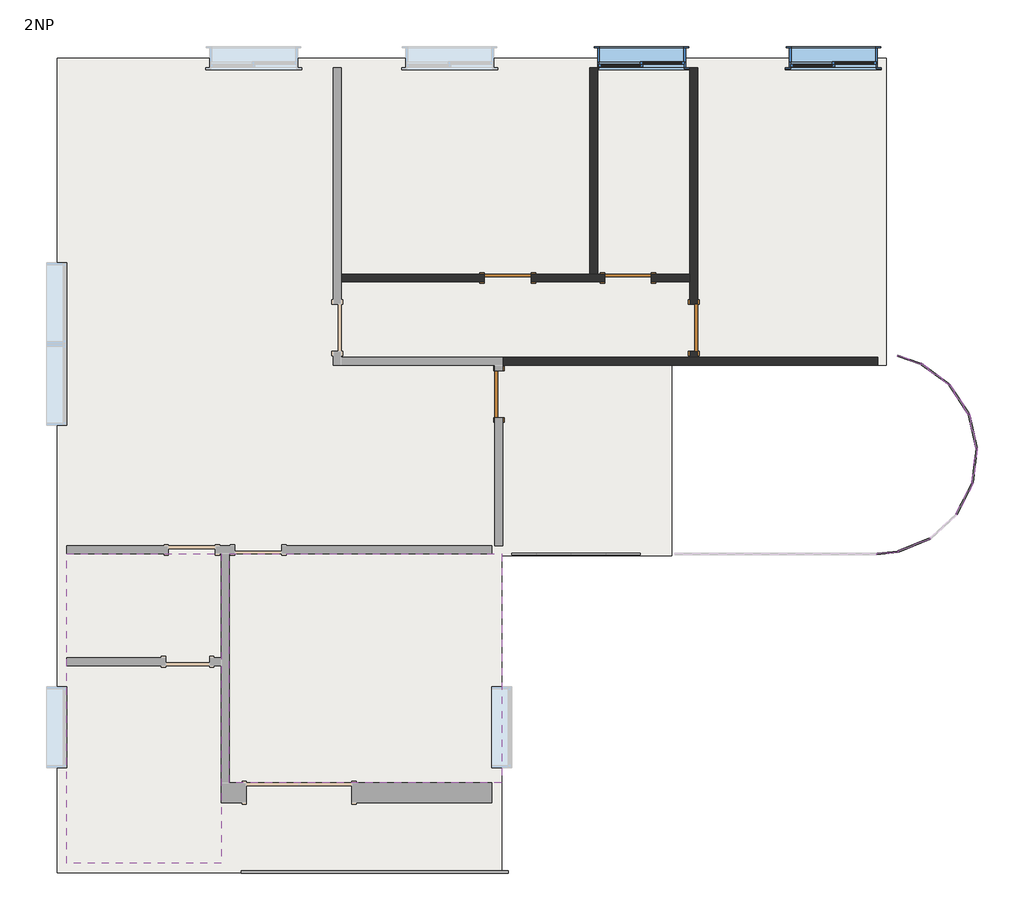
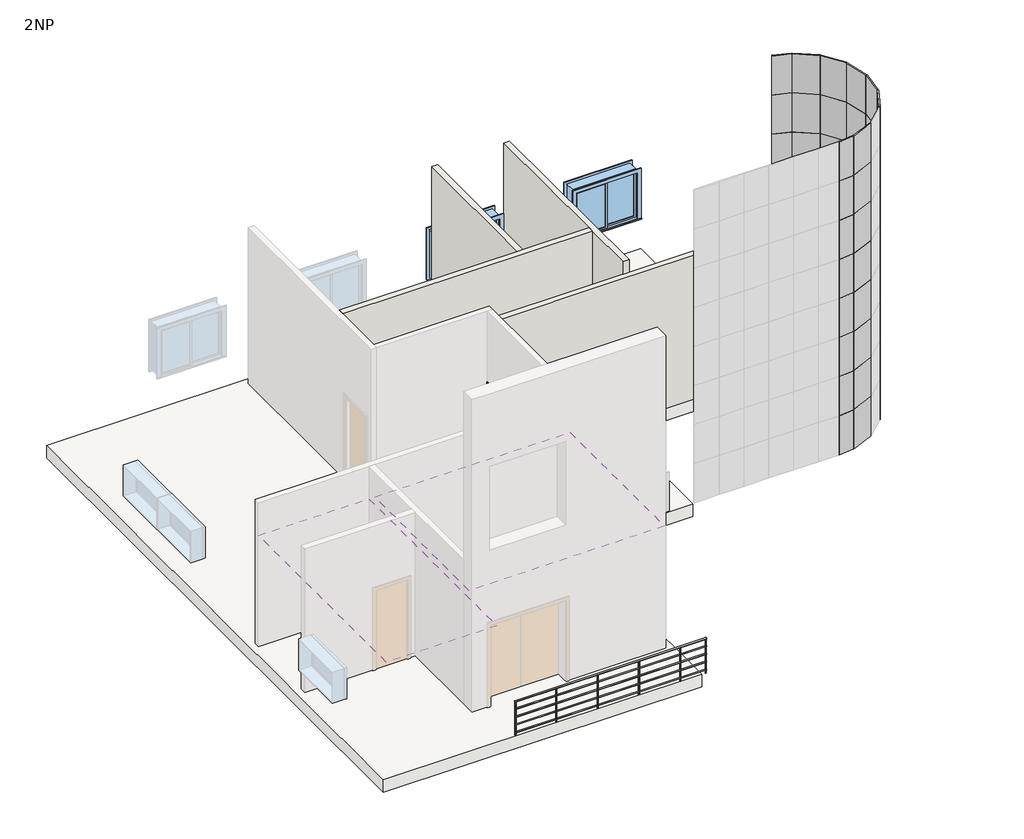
# One storey, part 2 of 2: 64 plates, 4 doors, 4 walls, 2 coverings, 2 railings, 2 windows, 1 slab.
"""IFC4 building model written with IfcOpenShell, lengths in millimetres."""

from ifc_helpers import new_model, si_unit, frame, origin, place, context, project, spatial, polyline, outline, extrude, faceted_brep, transform, mapped, element, save
from components import m_single_flush_0813_x_2134mm_bf4bb56d, m_single_flush_0813_x_2134mm_cfdfac75, system_panel_glazed_0324e248, system_panel_glazed_cfa42cd7, system_panel_glazed_a481d3b4, railing_900mm_pipe_45b1395d, m_sliding_with_trim_1830_x_1220mm_f8e2f31e

model = new_model("IFC4")

# Units and contexts
model_context = context("Model", 3, world=origin())
ifc_project = project(units=[si_unit("LENGTHUNIT", "METRE", prefix="MILLI")], contexts=[model_context])

# Site, building, storey
site = spatial("IfcSite", under=ifc_project)
building = spatial("IfcBuilding", under=site)
storey = spatial("IfcBuildingStorey", under=building, Name="2NP", Elevation=4000.0)

# Coverings
placement = place(None, origin())
element("IfcCovering", 1, ObjectType="600 x 600mm grid", at=placement, inside=storey, context=model_context, shape_type="SweptSolid", body=[
    extrude(outline(polyline([(-4505.3077176, -4075.1973194), (-7180.3077176, -4075.1973194), (-7180.3077176, 1286.3026806), (-4505.3077176, 1286.3026806), (-4505.3077176, -4075.1973194)])), frame((0.0, 0.0, 6850.0), z_axis=(0.0, 0.0, 1.0), x_axis=(1.0, 0.0, 0.0)), (0.0, 0.0, 1.0), 52.0),
])
element("IfcCovering", 2, ObjectType="600 x 600mm grid", at=placement, inside=storey, context=model_context, shape_type="SweptSolid", body=[
    extrude(outline(polyline([(357.3775179, 1286.3026806), (357.3775179, -2675.1973194), (-4366.8077176, -2675.1973194), (-4366.8077176, 1286.3026806), (357.3775179, 1286.3026806)])), frame((0.0, 0.0, 6850.0), z_axis=(0.0, 0.0, 1.0), x_axis=(1.0, 0.0, 0.0)), (0.0, 0.0, 1.0), 52.0),
])

# Doors
m_single_flush_0813_x_2134mm_shape = m_single_flush_0813_x_2134mm_bf4bb56d(model_context)
element("IfcDoor", 3, ObjectType="M_Single-Flush : 0813 x 2134mm", at=placement, inside=storey, context=model_context, shape_type="MappedRepresentation", body=[
    mapped(m_single_flush_0813_x_2134mm_shape, transform((2546.5391702, 6069.2761065, 4000.0), x_axis=(-1.0, 0.0, 0.0), y_axis=(0.0, -1.0, 0.0), z_axis=(0.0, 0.0, 1.0))),
])
m_single_flush_0813_x_2134mm_2_shape = m_single_flush_0813_x_2134mm_cfdfac75(model_context)
element("IfcDoor", 4, ObjectType="M_Single-Flush : 0813 x 2134mm", at=placement, inside=storey, context=model_context, shape_type="MappedRepresentation", body=[
    mapped(m_single_flush_0813_x_2134mm_2_shape, transform((462.8926637, 6069.2761065, 4000.0), x_axis=(1.0, 0.0, 0.0), y_axis=(0.0, 1.0, 0.0), z_axis=(0.0, 0.0, 1.0))),
])
element("IfcDoor", 5, ObjectType="M_Single-Flush : 0813 x 2134mm", at=placement, inside=storey, context=model_context, shape_type="MappedRepresentation", body=[
    mapped(m_single_flush_0813_x_2134mm_2_shape, transform((3688.9422824, 5206.5261065, 4000.0), x_axis=(0.0, -1.0, 0.0), y_axis=(1.0, 0.0, 0.0), z_axis=(0.0, 0.0, 1.0))),
])
element("IfcDoor", 6, ObjectType="M_Single-Flush : 0813 x 2134mm", at=placement, inside=storey, context=model_context, shape_type="MappedRepresentation", body=[
    mapped(m_single_flush_0813_x_2134mm_2_shape, transform((310.5422824, 4055.0261065, 4000.0), x_axis=(0.0, 1.0, 0.0), y_axis=(-1.0, 0.0, 0.0), z_axis=(0.0, 0.0, 1.0))),
])

# Plates
system_panel_glazed_shape = system_panel_glazed_0324e248(model_context)
element("IfcPlate", 7, ObjectType="System Panel : Glazed", at=placement, inside=storey, context=model_context, shape_type="MappedRepresentation", body=[
    mapped(system_panel_glazed_shape, transform((7407.5982701, 4617.9248656, 4000.0), x_axis=(0.9451321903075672, -0.3266881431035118, 0.0), y_axis=(0.3266881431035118, 0.9451321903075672, 0.0), z_axis=(0.0, 0.0, 1.0))),
])
element("IfcPlate", 8, ObjectType="System Panel : Glazed", at=placement, inside=storey, context=model_context, shape_type="MappedRepresentation", body=[
    mapped(system_panel_glazed_shape, transform((7407.5982701, 4617.9248656, 5000.0), x_axis=(0.9451321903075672, -0.32668814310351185, 0.0), y_axis=(0.32668814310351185, 0.9451321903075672, 0.0), z_axis=(0.0, 0.0, 1.0))),
])
element("IfcPlate", 9, ObjectType="System Panel : Glazed", at=placement, inside=storey, context=model_context, shape_type="MappedRepresentation", body=[
    mapped(system_panel_glazed_shape, transform((7407.5982701, 4617.9248656, 6000.0), x_axis=(0.9451321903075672, -0.32668814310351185, 0.0), y_axis=(0.32668814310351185, 0.9451321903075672, 0.0), z_axis=(0.0, 0.0, 1.0))),
])
element("IfcPlate", 10, ObjectType="System Panel : Glazed", at=placement, inside=storey, context=model_context, shape_type="MappedRepresentation", body=[
    mapped(system_panel_glazed_shape, transform((7407.5982701, 4617.9248656, 7000.0), x_axis=(0.9451321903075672, -0.32668814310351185, 0.0), y_axis=(0.32668814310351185, 0.9451321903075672, 0.0), z_axis=(0.0, 0.0, 1.0))),
])
element("IfcPlate", 11, ObjectType="System Panel : Glazed", at=placement, inside=storey, context=model_context, shape_type="MappedRepresentation", body=[
    mapped(system_panel_glazed_shape, transform((7407.5982701, 4617.9248656, 8000.0), x_axis=(0.9451321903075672, -0.32668814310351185, 0.0), y_axis=(0.32668814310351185, 0.9451321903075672, 0.0), z_axis=(0.0, 0.0, 1.0))),
])
element("IfcPlate", 12, ObjectType="System Panel : Glazed", at=placement, inside=storey, context=model_context, shape_type="MappedRepresentation", body=[
    mapped(system_panel_glazed_shape, transform((7407.5982701, 4617.9248656, 9000.0), x_axis=(0.9451321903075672, -0.32668814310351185, 0.0), y_axis=(0.32668814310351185, 0.9451321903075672, 0.0), z_axis=(0.0, 0.0, 1.0))),
])
element("IfcPlate", 13, ObjectType="System Panel : Glazed", at=placement, inside=storey, context=model_context, shape_type="MappedRepresentation", body=[
    mapped(system_panel_glazed_shape, transform((7407.5982701, 4617.9248656, 10000.0), x_axis=(0.9451321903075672, -0.32668814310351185, 0.0), y_axis=(0.32668814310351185, 0.9451321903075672, 0.0), z_axis=(0.0, 0.0, 1.0))),
])
element("IfcPlate", 14, ObjectType="System Panel : Glazed", at=placement, inside=storey, context=model_context, shape_type="MappedRepresentation", body=[
    mapped(system_panel_glazed_shape, transform((7407.5982701, 4617.9248656, 11000.0), x_axis=(0.9451321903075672, -0.32668814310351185, 0.0), y_axis=(0.32668814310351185, 0.9451321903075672, 0.0), z_axis=(0.0, 0.0, 1.0))),
])
system_panel_glazed_2_shape = system_panel_glazed_cfa42cd7(model_context)
element("IfcPlate", 15, ObjectType="System Panel : Glazed", at=placement, inside=storey, context=model_context, shape_type="MappedRepresentation", body=[
    mapped(system_panel_glazed_2_shape, transform((7847.9149476, 4372.0529301, 4000.0), x_axis=(0.8056732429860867, -0.5923602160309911, 0.0), y_axis=(0.5923602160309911, 0.8056732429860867, 0.0), z_axis=(0.0, 0.0, 1.0))),
])
element("IfcPlate", 16, ObjectType="System Panel : Glazed", at=placement, inside=storey, context=model_context, shape_type="MappedRepresentation", body=[
    mapped(system_panel_glazed_2_shape, transform((8252.8844111, 3946.2622388, 4000.0), x_axis=(0.5512569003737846, -0.8343355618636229, 0.0), y_axis=(0.8343355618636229, 0.5512569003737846, 0.0), z_axis=(0.0, 0.0, 1.0))),
])
element("IfcPlate", 17, ObjectType="System Panel : Glazed", at=placement, inside=storey, context=model_context, shape_type="MappedRepresentation", body=[
    mapped(system_panel_glazed_2_shape, transform((8485.7131471, 3406.7358179, 4000.0), x_axis=(0.22888174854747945, -0.9734542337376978, 0.0), y_axis=(0.9734542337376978, 0.22888174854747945, 0.0), z_axis=(0.0, 0.0, 1.0))),
])
element("IfcPlate", 18, ObjectType="System Panel : Glazed", at=placement, inside=storey, context=model_context, shape_type="MappedRepresentation", body=[
    mapped(system_panel_glazed_2_shape, transform((8517.6980887, 2819.9863461, 4000.0), x_axis=(-0.12170988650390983, -0.9925657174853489, 0.0), y_axis=(0.9925657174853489, -0.12170988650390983, 0.0), z_axis=(0.0, 0.0, 1.0))),
])
element("IfcPlate", 19, ObjectType="System Panel : Glazed", at=placement, inside=storey, context=model_context, shape_type="MappedRepresentation", body=[
    mapped(system_panel_glazed_2_shape, transform((7847.9149476, 4372.0529301, 5000.0), x_axis=(0.8056732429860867, -0.5923602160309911, 0.0), y_axis=(0.5923602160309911, 0.8056732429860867, 0.0), z_axis=(0.0, 0.0, 1.0))),
])
element("IfcPlate", 20, ObjectType="System Panel : Glazed", at=placement, inside=storey, context=model_context, shape_type="MappedRepresentation", body=[
    mapped(system_panel_glazed_2_shape, transform((8252.8844111, 3946.2622388, 5000.0), x_axis=(0.5512569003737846, -0.8343355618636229, 0.0), y_axis=(0.8343355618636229, 0.5512569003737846, 0.0), z_axis=(0.0, 0.0, 1.0))),
])
element("IfcPlate", 21, ObjectType="System Panel : Glazed", at=placement, inside=storey, context=model_context, shape_type="MappedRepresentation", body=[
    mapped(system_panel_glazed_2_shape, transform((8485.7131471, 3406.7358179, 5000.0), x_axis=(0.22888174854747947, -0.9734542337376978, 0.0), y_axis=(0.9734542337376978, 0.22888174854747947, 0.0), z_axis=(0.0, 0.0, 1.0))),
])
element("IfcPlate", 22, ObjectType="System Panel : Glazed", at=placement, inside=storey, context=model_context, shape_type="MappedRepresentation", body=[
    mapped(system_panel_glazed_2_shape, transform((8517.6980887, 2819.9863461, 5000.0), x_axis=(-0.12170988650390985, -0.9925657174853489, 0.0), y_axis=(0.9925657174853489, -0.12170988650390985, 0.0), z_axis=(0.0, 0.0, 1.0))),
])
element("IfcPlate", 23, ObjectType="System Panel : Glazed", at=placement, inside=storey, context=model_context, shape_type="MappedRepresentation", body=[
    mapped(system_panel_glazed_2_shape, transform((7847.9149476, 4372.0529301, 6000.0), x_axis=(0.8056732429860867, -0.5923602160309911, 0.0), y_axis=(0.5923602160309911, 0.8056732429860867, 0.0), z_axis=(0.0, 0.0, 1.0))),
])
element("IfcPlate", 24, ObjectType="System Panel : Glazed", at=placement, inside=storey, context=model_context, shape_type="MappedRepresentation", body=[
    mapped(system_panel_glazed_2_shape, transform((8252.8844111, 3946.2622388, 6000.0), x_axis=(0.5512569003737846, -0.8343355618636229, 0.0), y_axis=(0.8343355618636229, 0.5512569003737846, 0.0), z_axis=(0.0, 0.0, 1.0))),
])
element("IfcPlate", 25, ObjectType="System Panel : Glazed", at=placement, inside=storey, context=model_context, shape_type="MappedRepresentation", body=[
    mapped(system_panel_glazed_2_shape, transform((8485.7131471, 3406.7358179, 6000.0), x_axis=(0.22888174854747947, -0.9734542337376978, 0.0), y_axis=(0.9734542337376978, 0.22888174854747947, 0.0), z_axis=(0.0, 0.0, 1.0))),
])
element("IfcPlate", 26, ObjectType="System Panel : Glazed", at=placement, inside=storey, context=model_context, shape_type="MappedRepresentation", body=[
    mapped(system_panel_glazed_2_shape, transform((8517.6980887, 2819.9863461, 6000.0), x_axis=(-0.12170988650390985, -0.9925657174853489, 0.0), y_axis=(0.9925657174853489, -0.12170988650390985, 0.0), z_axis=(0.0, 0.0, 1.0))),
])
element("IfcPlate", 27, ObjectType="System Panel : Glazed", at=placement, inside=storey, context=model_context, shape_type="MappedRepresentation", body=[
    mapped(system_panel_glazed_2_shape, transform((7847.9149476, 4372.0529301, 7000.0), x_axis=(0.8056732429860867, -0.5923602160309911, 0.0), y_axis=(0.5923602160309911, 0.8056732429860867, 0.0), z_axis=(0.0, 0.0, 1.0))),
])
element("IfcPlate", 28, ObjectType="System Panel : Glazed", at=placement, inside=storey, context=model_context, shape_type="MappedRepresentation", body=[
    mapped(system_panel_glazed_2_shape, transform((8252.8844111, 3946.2622388, 7000.0), x_axis=(0.5512569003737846, -0.8343355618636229, 0.0), y_axis=(0.8343355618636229, 0.5512569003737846, 0.0), z_axis=(0.0, 0.0, 1.0))),
])
element("IfcPlate", 29, ObjectType="System Panel : Glazed", at=placement, inside=storey, context=model_context, shape_type="MappedRepresentation", body=[
    mapped(system_panel_glazed_2_shape, transform((8485.7131471, 3406.7358179, 7000.0), x_axis=(0.22888174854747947, -0.9734542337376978, 0.0), y_axis=(0.9734542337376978, 0.22888174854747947, 0.0), z_axis=(0.0, 0.0, 1.0))),
])
element("IfcPlate", 30, ObjectType="System Panel : Glazed", at=placement, inside=storey, context=model_context, shape_type="MappedRepresentation", body=[
    mapped(system_panel_glazed_2_shape, transform((8517.6980887, 2819.9863461, 7000.0), x_axis=(-0.12170988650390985, -0.9925657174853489, 0.0), y_axis=(0.9925657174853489, -0.12170988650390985, 0.0), z_axis=(0.0, 0.0, 1.0))),
])
element("IfcPlate", 31, ObjectType="System Panel : Glazed", at=placement, inside=storey, context=model_context, shape_type="MappedRepresentation", body=[
    mapped(system_panel_glazed_2_shape, transform((7847.9149476, 4372.0529301, 8000.0), x_axis=(0.8056732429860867, -0.5923602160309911, 0.0), y_axis=(0.5923602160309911, 0.8056732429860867, 0.0), z_axis=(0.0, 0.0, 1.0))),
])
element("IfcPlate", 32, ObjectType="System Panel : Glazed", at=placement, inside=storey, context=model_context, shape_type="MappedRepresentation", body=[
    mapped(system_panel_glazed_2_shape, transform((8252.8844111, 3946.2622388, 8000.0), x_axis=(0.5512569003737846, -0.8343355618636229, 0.0), y_axis=(0.8343355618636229, 0.5512569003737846, 0.0), z_axis=(0.0, 0.0, 1.0))),
])
element("IfcPlate", 33, ObjectType="System Panel : Glazed", at=placement, inside=storey, context=model_context, shape_type="MappedRepresentation", body=[
    mapped(system_panel_glazed_2_shape, transform((8485.7131471, 3406.7358179, 8000.0), x_axis=(0.22888174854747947, -0.9734542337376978, 0.0), y_axis=(0.9734542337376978, 0.22888174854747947, 0.0), z_axis=(0.0, 0.0, 1.0))),
])
element("IfcPlate", 34, ObjectType="System Panel : Glazed", at=placement, inside=storey, context=model_context, shape_type="MappedRepresentation", body=[
    mapped(system_panel_glazed_2_shape, transform((8517.6980887, 2819.9863461, 8000.0), x_axis=(-0.12170988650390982, -0.9925657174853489, 0.0), y_axis=(0.9925657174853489, -0.12170988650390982, 0.0), z_axis=(0.0, 0.0, 1.0))),
])
element("IfcPlate", 35, ObjectType="System Panel : Glazed", at=placement, inside=storey, context=model_context, shape_type="MappedRepresentation", body=[
    mapped(system_panel_glazed_2_shape, transform((7847.9149476, 4372.0529301, 9000.0), x_axis=(0.8056732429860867, -0.5923602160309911, 0.0), y_axis=(0.5923602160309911, 0.8056732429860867, 0.0), z_axis=(0.0, 0.0, 1.0))),
])
element("IfcPlate", 36, ObjectType="System Panel : Glazed", at=placement, inside=storey, context=model_context, shape_type="MappedRepresentation", body=[
    mapped(system_panel_glazed_2_shape, transform((8252.8844111, 3946.2622388, 9000.0), x_axis=(0.5512569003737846, -0.8343355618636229, 0.0), y_axis=(0.8343355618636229, 0.5512569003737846, 0.0), z_axis=(0.0, 0.0, 1.0))),
])
element("IfcPlate", 37, ObjectType="System Panel : Glazed", at=placement, inside=storey, context=model_context, shape_type="MappedRepresentation", body=[
    mapped(system_panel_glazed_2_shape, transform((8485.7131471, 3406.7358179, 9000.0), x_axis=(0.22888174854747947, -0.9734542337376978, 0.0), y_axis=(0.9734542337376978, 0.22888174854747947, 0.0), z_axis=(0.0, 0.0, 1.0))),
])
element("IfcPlate", 38, ObjectType="System Panel : Glazed", at=placement, inside=storey, context=model_context, shape_type="MappedRepresentation", body=[
    mapped(system_panel_glazed_2_shape, transform((8517.6980887, 2819.9863461, 9000.0), x_axis=(-0.12170988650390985, -0.9925657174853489, 0.0), y_axis=(0.9925657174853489, -0.12170988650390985, 0.0), z_axis=(0.0, 0.0, 1.0))),
])
element("IfcPlate", 39, ObjectType="System Panel : Glazed", at=placement, inside=storey, context=model_context, shape_type="MappedRepresentation", body=[
    mapped(system_panel_glazed_2_shape, transform((7847.9149476, 4372.0529301, 10000.0), x_axis=(0.8056732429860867, -0.5923602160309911, 0.0), y_axis=(0.5923602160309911, 0.8056732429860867, 0.0), z_axis=(0.0, 0.0, 1.0))),
])
element("IfcPlate", 40, ObjectType="System Panel : Glazed", at=placement, inside=storey, context=model_context, shape_type="MappedRepresentation", body=[
    mapped(system_panel_glazed_2_shape, transform((8252.8844111, 3946.2622388, 10000.0), x_axis=(0.5512569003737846, -0.8343355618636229, 0.0), y_axis=(0.8343355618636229, 0.5512569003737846, 0.0), z_axis=(0.0, 0.0, 1.0))),
])
element("IfcPlate", 41, ObjectType="System Panel : Glazed", at=placement, inside=storey, context=model_context, shape_type="MappedRepresentation", body=[
    mapped(system_panel_glazed_2_shape, transform((8485.7131471, 3406.7358179, 10000.0), x_axis=(0.22888174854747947, -0.9734542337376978, 0.0), y_axis=(0.9734542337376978, 0.22888174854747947, 0.0), z_axis=(0.0, 0.0, 1.0))),
])
element("IfcPlate", 42, ObjectType="System Panel : Glazed", at=placement, inside=storey, context=model_context, shape_type="MappedRepresentation", body=[
    mapped(system_panel_glazed_2_shape, transform((8517.6980887, 2819.9863461, 10000.0), x_axis=(-0.12170988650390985, -0.9925657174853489, 0.0), y_axis=(0.9925657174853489, -0.12170988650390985, 0.0), z_axis=(0.0, 0.0, 1.0))),
])
element("IfcPlate", 43, ObjectType="System Panel : Glazed", at=placement, inside=storey, context=model_context, shape_type="MappedRepresentation", body=[
    mapped(system_panel_glazed_2_shape, transform((7847.9149476, 4372.0529301, 11000.0), x_axis=(0.8056732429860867, -0.5923602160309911, 0.0), y_axis=(0.5923602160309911, 0.8056732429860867, 0.0), z_axis=(0.0, 0.0, 1.0))),
])
element("IfcPlate", 44, ObjectType="System Panel : Glazed", at=placement, inside=storey, context=model_context, shape_type="MappedRepresentation", body=[
    mapped(system_panel_glazed_2_shape, transform((8252.8844111, 3946.2622388, 11000.0), x_axis=(0.5512569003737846, -0.8343355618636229, 0.0), y_axis=(0.8343355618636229, 0.5512569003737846, 0.0), z_axis=(0.0, 0.0, 1.0))),
])
element("IfcPlate", 45, ObjectType="System Panel : Glazed", at=placement, inside=storey, context=model_context, shape_type="MappedRepresentation", body=[
    mapped(system_panel_glazed_2_shape, transform((8485.7131471, 3406.7358179, 11000.0), x_axis=(0.22888174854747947, -0.9734542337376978, 0.0), y_axis=(0.9734542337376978, 0.22888174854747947, 0.0), z_axis=(0.0, 0.0, 1.0))),
])
element("IfcPlate", 46, ObjectType="System Panel : Glazed", at=placement, inside=storey, context=model_context, shape_type="MappedRepresentation", body=[
    mapped(system_panel_glazed_2_shape, transform((8517.6980887, 2819.9863461, 11000.0), x_axis=(-0.12170988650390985, -0.9925657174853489, 0.0), y_axis=(0.9925657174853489, -0.12170988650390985, 0.0), z_axis=(0.0, 0.0, 1.0))),
])
element("IfcPlate", 47, ObjectType="System Panel : Glazed", at=placement, inside=storey, context=model_context, shape_type="MappedRepresentation", body=[
    mapped(system_panel_glazed_2_shape, transform((8344.8961407, 2258.3481477, 4000.0), x_axis=(-0.4572971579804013, -0.8893139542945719, 0.0), y_axis=(0.8893139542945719, -0.4572971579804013, 0.0), z_axis=(0.0, 0.0, 1.0))),
])
element("IfcPlate", 48, ObjectType="System Panel : Glazed", at=placement, inside=storey, context=model_context, shape_type="MappedRepresentation", body=[
    mapped(system_panel_glazed_2_shape, transform((8344.8961407, 2258.3481477, 5000.0), x_axis=(-0.4572971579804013, -0.8893139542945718, 0.0), y_axis=(0.8893139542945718, -0.4572971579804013, 0.0), z_axis=(0.0, 0.0, 1.0))),
])
element("IfcPlate", 49, ObjectType="System Panel : Glazed", at=placement, inside=storey, context=model_context, shape_type="MappedRepresentation", body=[
    mapped(system_panel_glazed_2_shape, transform((8344.8961407, 2258.3481477, 6000.0), x_axis=(-0.4572971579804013, -0.8893139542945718, 0.0), y_axis=(0.8893139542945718, -0.4572971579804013, 0.0), z_axis=(0.0, 0.0, 1.0))),
])
element("IfcPlate", 50, ObjectType="System Panel : Glazed", at=placement, inside=storey, context=model_context, shape_type="MappedRepresentation", body=[
    mapped(system_panel_glazed_2_shape, transform((8344.8961407, 2258.3481477, 7000.0), x_axis=(-0.4572971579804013, -0.8893139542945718, 0.0), y_axis=(0.8893139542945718, -0.4572971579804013, 0.0), z_axis=(0.0, 0.0, 1.0))),
])
element("IfcPlate", 51, ObjectType="System Panel : Glazed", at=placement, inside=storey, context=model_context, shape_type="MappedRepresentation", body=[
    mapped(system_panel_glazed_2_shape, transform((8344.8961407, 2258.3481477, 8000.0), x_axis=(-0.4572971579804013, -0.8893139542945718, 0.0), y_axis=(0.8893139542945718, -0.4572971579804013, 0.0), z_axis=(0.0, 0.0, 1.0))),
])
element("IfcPlate", 52, ObjectType="System Panel : Glazed", at=placement, inside=storey, context=model_context, shape_type="MappedRepresentation", body=[
    mapped(system_panel_glazed_2_shape, transform((8344.8961407, 2258.3481477, 9000.0), x_axis=(-0.4572971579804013, -0.8893139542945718, 0.0), y_axis=(0.8893139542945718, -0.4572971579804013, 0.0), z_axis=(0.0, 0.0, 1.0))),
])
element("IfcPlate", 53, ObjectType="System Panel : Glazed", at=placement, inside=storey, context=model_context, shape_type="MappedRepresentation", body=[
    mapped(system_panel_glazed_2_shape, transform((8344.8961407, 2258.3481477, 10000.0), x_axis=(-0.4572971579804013, -0.8893139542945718, 0.0), y_axis=(0.8893139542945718, -0.4572971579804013, 0.0), z_axis=(0.0, 0.0, 1.0))),
])
element("IfcPlate", 54, ObjectType="System Panel : Glazed", at=placement, inside=storey, context=model_context, shape_type="MappedRepresentation", body=[
    mapped(system_panel_glazed_2_shape, transform((8344.8961407, 2258.3481477, 11000.0), x_axis=(-0.4572971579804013, -0.8893139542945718, 0.0), y_axis=(0.8893139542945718, -0.4572971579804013, 0.0), z_axis=(0.0, 0.0, 1.0))),
])
element("IfcPlate", 55, ObjectType="System Panel : Glazed", at=placement, inside=storey, context=model_context, shape_type="MappedRepresentation", body=[
    mapped(system_panel_glazed_2_shape, transform((7492.7633439, 1475.7285933, 4000.0), x_axis=(-0.924924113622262, -0.38015179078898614, 0.0), y_axis=(0.38015179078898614, -0.924924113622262, 0.0), z_axis=(0.0, 0.0, 1.0))),
])
element("IfcPlate", 56, ObjectType="System Panel : Glazed", at=placement, inside=storey, context=model_context, shape_type="MappedRepresentation", body=[
    mapped(system_panel_glazed_2_shape, transform((7492.7633439, 1475.7285933, 5000.0), x_axis=(-0.924924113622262, -0.38015179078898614, 0.0), y_axis=(0.38015179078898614, -0.924924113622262, 0.0), z_axis=(0.0, 0.0, 1.0))),
])
element("IfcPlate", 57, ObjectType="System Panel : Glazed", at=placement, inside=storey, context=model_context, shape_type="MappedRepresentation", body=[
    mapped(system_panel_glazed_2_shape, transform((7492.7633439, 1475.7285933, 6000.0), x_axis=(-0.924924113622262, -0.38015179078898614, 0.0), y_axis=(0.38015179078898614, -0.924924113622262, 0.0), z_axis=(0.0, 0.0, 1.0))),
])
element("IfcPlate", 58, ObjectType="System Panel : Glazed", at=placement, inside=storey, context=model_context, shape_type="MappedRepresentation", body=[
    mapped(system_panel_glazed_2_shape, transform((7492.7633439, 1475.7285933, 7000.0), x_axis=(-0.924924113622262, -0.38015179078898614, 0.0), y_axis=(0.38015179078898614, -0.924924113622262, 0.0), z_axis=(0.0, 0.0, 1.0))),
])
element("IfcPlate", 59, ObjectType="System Panel : Glazed", at=placement, inside=storey, context=model_context, shape_type="MappedRepresentation", body=[
    mapped(system_panel_glazed_2_shape, transform((7492.7633439, 1475.7285933, 8000.0), x_axis=(-0.924924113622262, -0.38015179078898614, 0.0), y_axis=(0.38015179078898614, -0.924924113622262, 0.0), z_axis=(0.0, 0.0, 1.0))),
])
element("IfcPlate", 60, ObjectType="System Panel : Glazed", at=placement, inside=storey, context=model_context, shape_type="MappedRepresentation", body=[
    mapped(system_panel_glazed_2_shape, transform((7492.7633439, 1475.7285933, 9000.0), x_axis=(-0.924924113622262, -0.38015179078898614, 0.0), y_axis=(0.38015179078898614, -0.924924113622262, 0.0), z_axis=(0.0, 0.0, 1.0))),
])
element("IfcPlate", 61, ObjectType="System Panel : Glazed", at=placement, inside=storey, context=model_context, shape_type="MappedRepresentation", body=[
    mapped(system_panel_glazed_2_shape, transform((7492.7633439, 1475.7285933, 10000.0), x_axis=(-0.924924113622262, -0.38015179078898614, 0.0), y_axis=(0.38015179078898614, -0.924924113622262, 0.0), z_axis=(0.0, 0.0, 1.0))),
])
element("IfcPlate", 62, ObjectType="System Panel : Glazed", at=placement, inside=storey, context=model_context, shape_type="MappedRepresentation", body=[
    mapped(system_panel_glazed_2_shape, transform((7492.7633439, 1475.7285933, 11000.0), x_axis=(-0.924924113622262, -0.38015179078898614, 0.0), y_axis=(0.38015179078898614, -0.924924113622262, 0.0), z_axis=(0.0, 0.0, 1.0))),
])
system_panel_glazed_3_shape = system_panel_glazed_a481d3b4(model_context)
element("IfcPlate", 63, ObjectType="System Panel : Glazed", at=placement, inside=storey, context=model_context, shape_type="MappedRepresentation", body=[
    mapped(system_panel_glazed_3_shape, transform((7036.6330579, 1342.97692, 4000.0), x_axis=(-0.9943081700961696, -0.10654230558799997, 0.0), y_axis=(0.10654230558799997, -0.9943081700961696, 0.0), z_axis=(0.0, 0.0, 1.0))),
])
element("IfcPlate", 64, ObjectType="System Panel : Glazed", at=placement, inside=storey, context=model_context, shape_type="MappedRepresentation", body=[
    mapped(system_panel_glazed_3_shape, transform((7036.6330579, 1342.97692, 5000.0), x_axis=(-0.9943081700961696, -0.10654230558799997, 0.0), y_axis=(0.10654230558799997, -0.9943081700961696, 0.0), z_axis=(0.0, 0.0, 1.0))),
])
element("IfcPlate", 65, ObjectType="System Panel : Glazed", at=placement, inside=storey, context=model_context, shape_type="MappedRepresentation", body=[
    mapped(system_panel_glazed_3_shape, transform((7036.6330579, 1342.97692, 6000.0), x_axis=(-0.9943081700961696, -0.10654230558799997, 0.0), y_axis=(0.10654230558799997, -0.9943081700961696, 0.0), z_axis=(0.0, 0.0, 1.0))),
])
element("IfcPlate", 66, ObjectType="System Panel : Glazed", at=placement, inside=storey, context=model_context, shape_type="MappedRepresentation", body=[
    mapped(system_panel_glazed_3_shape, transform((7036.6330579, 1342.97692, 7000.0), x_axis=(-0.9943081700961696, -0.10654230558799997, 0.0), y_axis=(0.10654230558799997, -0.9943081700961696, 0.0), z_axis=(0.0, 0.0, 1.0))),
])
element("IfcPlate", 67, ObjectType="System Panel : Glazed", at=placement, inside=storey, context=model_context, shape_type="MappedRepresentation", body=[
    mapped(system_panel_glazed_3_shape, transform((7036.6330579, 1342.97692, 8000.0), x_axis=(-0.9943081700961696, -0.10654230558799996, 0.0), y_axis=(0.10654230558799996, -0.9943081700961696, 0.0), z_axis=(0.0, 0.0, 1.0))),
])
element("IfcPlate", 68, ObjectType="System Panel : Glazed", at=placement, inside=storey, context=model_context, shape_type="MappedRepresentation", body=[
    mapped(system_panel_glazed_3_shape, transform((7036.6330579, 1342.97692, 9000.0), x_axis=(-0.9943081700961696, -0.10654230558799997, 0.0), y_axis=(0.10654230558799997, -0.9943081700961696, 0.0), z_axis=(0.0, 0.0, 1.0))),
])
element("IfcPlate", 69, ObjectType="System Panel : Glazed", at=placement, inside=storey, context=model_context, shape_type="MappedRepresentation", body=[
    mapped(system_panel_glazed_3_shape, transform((7036.6330579, 1342.97692, 10000.0), x_axis=(-0.9943081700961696, -0.10654230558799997, 0.0), y_axis=(0.10654230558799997, -0.9943081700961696, 0.0), z_axis=(0.0, 0.0, 1.0))),
])
element("IfcPlate", 70, ObjectType="System Panel : Glazed", at=placement, inside=storey, context=model_context, shape_type="MappedRepresentation", body=[
    mapped(system_panel_glazed_3_shape, transform((7036.6330579, 1342.97692, 11000.0), x_axis=(-0.9943081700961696, -0.10654230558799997, 0.0), y_axis=(0.10654230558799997, -0.9943081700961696, 0.0), z_axis=(0.0, 0.0, 1.0))),
])

# Railings
railing_900mm_pipe_shape = railing_900mm_pipe_45b1395d(model_context)
element("IfcRailing", 71, ObjectType="900mm Pipe", at=placement, inside=storey, context=model_context, shape_type="MappedRepresentation", body=[
    mapped(railing_900mm_pipe_shape, transform((0.0, 0.0, 0.0), x_axis=(1.0, 0.0, 0.0), y_axis=(0.0, 1.0, 0.0), z_axis=(0.0, 0.0, 1.0))),
])
element("IfcRailing", 72, ObjectType="900mm Pipe", at=placement, inside=storey, context=model_context, shape_type="MappedRepresentation", body=[
    mapped(railing_900mm_pipe_shape, transform((0.0, 0.0, 0.0), x_axis=(1.0, 0.0, 0.0), y_axis=(0.0, 1.0, 0.0), z_axis=(0.0, 0.0, 1.0))),
])

# Slab
element("IfcSlab", 73, ObjectType="Residential 320mm", at=placement, inside=storey, context=model_context, shape_type="SweptSolid", body=[
    extrude(outline(polyline([(-7345.3077176, -4240.1973194), (-7345.3077176, 9876.6003657), (7023.993045, 9876.6003657), (7023.993045, 4561.5261065), (3308.993045, 4561.5261065), (3308.993045, 1259.8026806), (357.3775179, 1259.8026806), (357.3775179, -4240.1973194), (-7345.3077176, -4240.1973194)])), frame((0.0, 0.0, 3680.0), z_axis=(0.0, 0.0, 1.0), x_axis=(1.0, 0.0, 0.0)), (0.0, 0.0, 1.0), 320.0),
])

# Walls
element("IfcWall", 74, ObjectType="Interior - 138mm Partition (1-hr)", at=placement, inside=storey, context=model_context, shape_type="Brep", body=[
    faceted_brep([(379.7922824, 4561.5261065, 4000.0), (6871.993045, 4561.5261065, 4000.0), (6871.993045, 4561.5261065, 7680.0), (3308.993045, 4561.5261065, 7680.0), (379.7922824, 4561.5261065, 7680.0), (379.7922824, 4700.0261065, 4000.0), (379.7922824, 4700.0261065, 7680.0), (6871.993045, 4700.0261065, 7680.0), (6871.993045, 4700.0261065, 4000.0)], [[[0, 1, 2, 3, 4]], [[5, 6, 7, 8]], [[1, 0, 5, 8]], [[2, 1, 8, 7]], [[0, 4, 6, 5]], [[4, 3, 2, 7, 6]]]),
])
element("IfcWall", 75, ObjectType="Interior - 138mm Partition (1-hr)", at=placement, inside=storey, context=model_context, shape_type="Brep", body=[
    faceted_brep([(3758.1922824, 4700.0261065, 4000.0), (3758.1922824, 4800.0261065, 4000.0), (3758.1922824, 4800.0261065, 6134.0), (3758.1922824, 5613.0261065, 6134.0), (3758.1922824, 5613.0261065, 4000.0), (3758.1922824, 9711.6003657, 4000.0), (3758.1922824, 9711.6003657, 8000.0), (3758.1922824, 4700.0261065, 8000.0), (3619.6922824, 4800.0261065, 6134.0), (3619.6922824, 4800.0261065, 4000.0), (3619.6922824, 4700.0261065, 4000.0), (3619.6922824, 4700.0261065, 8000.0), (3619.6922824, 6000.0261065, 8000.0), (3619.6922824, 6138.5261065, 8000.0), (3619.6922824, 9711.6003657, 8000.0), (3619.6922824, 9711.6003657, 4000.0), (3619.6922824, 6138.5261065, 4000.0), (3619.6922824, 6000.0261065, 4000.0), (3619.6922824, 5613.0261065, 4000.0), (3619.6922824, 5613.0261065, 6134.0)], [[[0, 1, 2, 3, 4, 5, 6, 7]], [[8, 9, 10, 11, 12, 13, 14, 15, 16, 17, 18, 19]], [[10, 9, 1, 0]], [[18, 17, 16, 15, 5, 4]], [[7, 6, 14, 13, 12, 11]], [[6, 5, 15, 14]], [[0, 7, 11, 10]], [[2, 1, 9, 8]], [[3, 2, 8, 19]], [[4, 3, 19, 18]]]),
])
element("IfcWall", 76, ObjectType="Interior - 138mm Partition (1-hr)", at=placement, inside=storey, context=model_context, shape_type="Brep", body=[
    faceted_brep([(869.3926637, 6000.0261065, 4000.0), (2140.0391702, 6000.0261065, 4000.0), (2140.0391702, 6000.0261065, 6134.0), (2953.0391702, 6000.0261065, 6134.0), (2953.0391702, 6000.0261065, 4000.0), (3619.6922824, 6000.0261065, 4000.0), (3619.6922824, 6000.0261065, 8000.0), (-2420.2077176, 6000.0261065, 8000.0), (-2420.2077176, 6000.0261065, 4000.0), (56.3926637, 6000.0261065, 4000.0), (56.3926637, 6000.0261065, 6134.0), (869.3926637, 6000.0261065, 6134.0), (2140.0391702, 6138.5261065, 6134.0), (2140.0391702, 6138.5261065, 4000.0), (2019.6922824, 6138.5261065, 4000.0), (1881.1922824, 6138.5261065, 4000.0), (869.3926637, 6138.5261065, 4000.0), (869.3926637, 6138.5261065, 6134.0), (56.3926637, 6138.5261065, 6134.0), (56.3926637, 6138.5261065, 4000.0), (-2420.2077176, 6138.5261065, 4000.0), (-2420.2077176, 6138.5261065, 8000.0), (1881.1922824, 6138.5261065, 8000.0), (2019.6922824, 6138.5261065, 8000.0), (3619.6922824, 6138.5261065, 8000.0), (3619.6922824, 6138.5261065, 4000.0), (2953.0391702, 6138.5261065, 4000.0), (2953.0391702, 6138.5261065, 6134.0)], [[[0, 1, 2, 3, 4, 5, 6, 7, 8, 9, 10, 11]], [[12, 13, 14, 15, 16, 17, 18, 19, 20, 21, 22, 23, 24, 25, 26, 27]], [[16, 15, 14, 13, 1, 0]], [[9, 8, 20, 19]], [[26, 25, 5, 4]], [[7, 6, 24, 23, 22, 21]], [[6, 5, 25, 24]], [[8, 7, 21, 20]], [[17, 16, 0, 11]], [[18, 17, 11, 10]], [[19, 18, 10, 9]], [[2, 1, 13, 12]], [[3, 2, 12, 27]], [[4, 3, 27, 26]]]),
])
element("IfcWall", 77, ObjectType="Interior - 138mm Partition (1-hr)", at=placement, inside=storey, context=model_context, shape_type="SweptSolid", body=[
    extrude(outline(polyline([(2019.6922824, 9711.6003657), (2019.6922824, 6138.5261065), (1881.1922824, 6138.5261065), (1881.1922824, 9711.6003657), (2019.6922824, 9711.6003657)])), frame((0.0, 0.0, 4000.0), z_axis=(0.0, 0.0, 1.0), x_axis=(1.0, 0.0, 0.0)), (0.0, 0.0, 1.0), 4000.0),
])

# Windows
m_sliding_with_trim_1830_x_1220mm_shape = m_sliding_with_trim_1830_x_1220mm_f8e2f31e(model_context)
element("IfcWindow", 78, ObjectType="M_Sliding with Trim : 1830 x 1220mm", at=placement, inside=storey, context=model_context, shape_type="MappedRepresentation", body=[
    mapped(m_sliding_with_trim_1830_x_1220mm_shape, transform((6107.6922824, 9886.6003657, 4000.0), x_axis=(-1.0, 0.0, 0.0), y_axis=(0.0, -1.0, 0.0), z_axis=(0.0, 0.0, 1.0))),
])
element("IfcWindow", 79, ObjectType="M_Sliding with Trim : 1830 x 1220mm", at=placement, inside=storey, context=model_context, shape_type="MappedRepresentation", body=[
    mapped(m_sliding_with_trim_1830_x_1220mm_shape, transform((2781.6922824, 9886.6003657, 4000.0), x_axis=(-1.0, 0.0, 0.0), y_axis=(0.0, -1.0, 0.0), z_axis=(0.0, 0.0, 1.0))),
])

save(model, "model.ifc")
